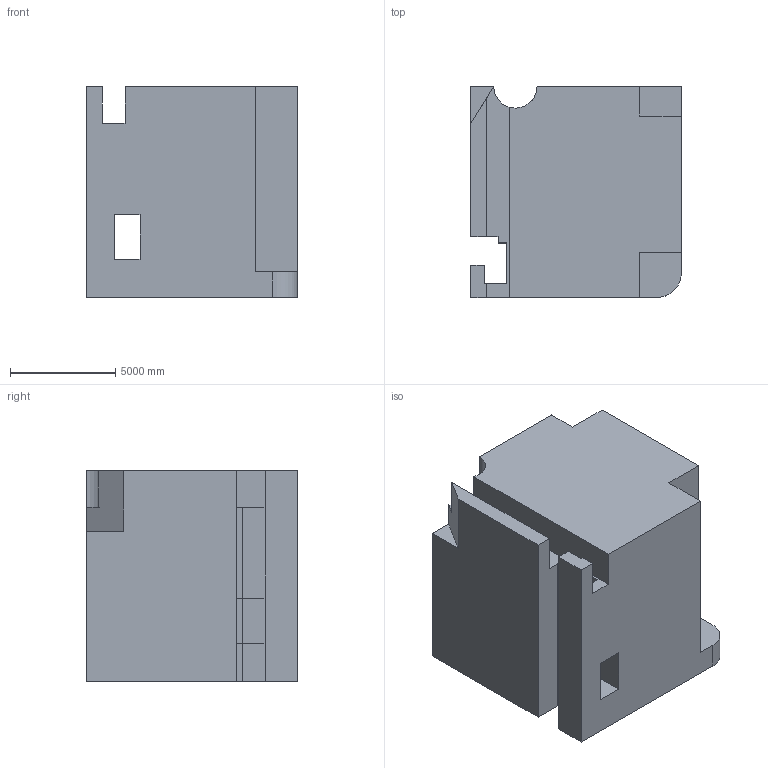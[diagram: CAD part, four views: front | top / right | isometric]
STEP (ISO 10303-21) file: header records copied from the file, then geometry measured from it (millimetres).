
FILE_DESCRIPTION (( 'STEP AP203' ), '1' );
FILE_NAME ('1903.STEP', '2022-08-25T16:42:54', ( 'user' ), ( '' ), 'SwSTEP 2.0', 'SolidWorks 2021', '' );
FILE_SCHEMA (( 'CONFIG_CONTROL_DESIGN' ));
Length unit declared in the file: centimetre
Products named in the file (1): 1903
Bounding box: 10000 x 10000 x 10000 mm (x, y, z)
Volume: 850750862714 mm3; surface area: 724419603.3 mm2
Topology: 1 solids, 1 shells, 45 faces, 134 edges, 89 vertices
Faces by surface type: plane 43, cylinder 2
Entity records: 1572 total; most frequent: CARTESIAN_POINT 269, ORIENTED_EDGE 268, DIRECTION 233, EDGE_CURVE 134, LINE 127, VECTOR 127, VERTEX_POINT 89, AXIS2_PLACEMENT_3D 53
